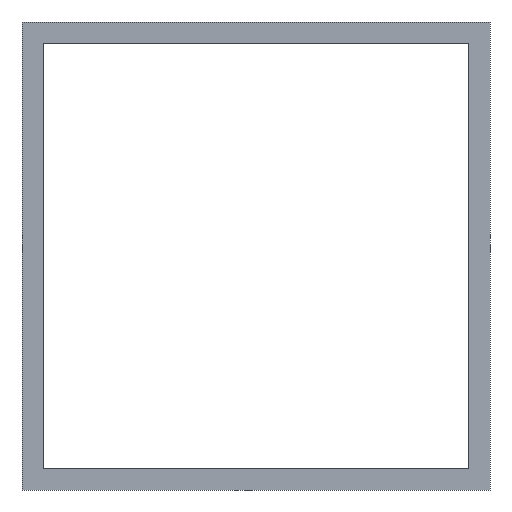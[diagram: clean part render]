
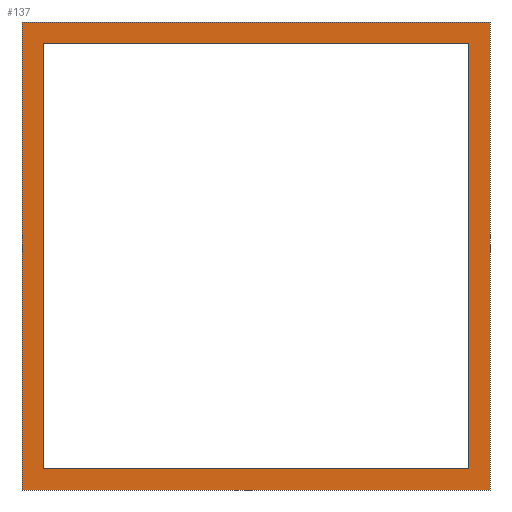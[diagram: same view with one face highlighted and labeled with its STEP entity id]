
A CAD part, front view. The second image highlights one B-rep face of the part: STEP entity #137.
In plain terms, the highlighted planar face has unit normal (0, -1, 0).
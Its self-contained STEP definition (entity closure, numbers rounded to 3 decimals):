
#21 = EDGE_CURVE('',#22,#24,#26,.T.);
#22 = VERTEX_POINT('',#23);
#23 = CARTESIAN_POINT('',(-430.,203.,80.));
#24 = VERTEX_POINT('',#25);
#25 = CARTESIAN_POINT('',(-430.,203.,146.));
#26 = SURFACE_CURVE('',#27,(#31,#43),.PCURVE_S1.);
#27 = LINE('',#28,#29);
#28 = CARTESIAN_POINT('',(-430.,203.,80.));
#29 = VECTOR('',#30,1.);
#30 = DIRECTION('',(0.,0.,1.));
#31 = PCURVE('',#32,#37);
#32 = PLANE('',#33);
#33 = AXIS2_PLACEMENT_3D('',#34,#35,#36);
#34 = CARTESIAN_POINT('',(-430.,203.,80.));
#35 = DIRECTION('',(1.,0.,0.));
#36 = DIRECTION('',(0.,0.,1.));
#37 = DEFINITIONAL_REPRESENTATION('',(#38),#42);
#38 = LINE('',#39,#40);
#39 = CARTESIAN_POINT('',(0.,0.));
#40 = VECTOR('',#41,1.);
#41 = DIRECTION('',(1.,0.));
#42 = ( GEOMETRIC_REPRESENTATION_CONTEXT(2) 
PARAMETRIC_REPRESENTATION_CONTEXT() REPRESENTATION_CONTEXT('2D SPACE',''
  ) );
#43 = PCURVE('',#44,#49);
#44 = PLANE('',#45);
#45 = AXIS2_PLACEMENT_3D('',#46,#47,#48);
#46 = CARTESIAN_POINT('',(-430.,203.,80.));
#47 = DIRECTION('',(0.,1.,0.));
#48 = DIRECTION('',(0.,0.,1.));
#49 = DEFINITIONAL_REPRESENTATION('',(#50),#54);
#50 = LINE('',#51,#52);
#51 = CARTESIAN_POINT('',(0.,0.));
#52 = VECTOR('',#53,1.);
#53 = DIRECTION('',(1.,0.));
#54 = ( GEOMETRIC_REPRESENTATION_CONTEXT(2) 
PARAMETRIC_REPRESENTATION_CONTEXT() REPRESENTATION_CONTEXT('2D SPACE',''
  ) );
#72 = PLANE('',#73);
#73 = AXIS2_PLACEMENT_3D('',#74,#75,#76);
#74 = CARTESIAN_POINT('',(-430.,203.,80.));
#75 = DIRECTION('',(0.,0.,1.));
#76 = DIRECTION('',(1.,0.,0.));
#126 = PLANE('',#127);
#127 = AXIS2_PLACEMENT_3D('',#128,#129,#130);
#128 = CARTESIAN_POINT('',(-430.,203.,146.));
#129 = DIRECTION('',(0.,0.,1.));
#130 = DIRECTION('',(1.,0.,0.));
#137 = ADVANCED_FACE('',(#138,#213),#44,.F.);
#138 = FACE_BOUND('',#139,.F.);
#139 = EDGE_LOOP('',(#140,#163,#164,#187));
#140 = ORIENTED_EDGE('',*,*,#141,.F.);
#141 = EDGE_CURVE('',#22,#142,#144,.T.);
#142 = VERTEX_POINT('',#143);
#143 = CARTESIAN_POINT('',(-364.,203.,80.));
#144 = SURFACE_CURVE('',#145,(#149,#156),.PCURVE_S1.);
#145 = LINE('',#146,#147);
#146 = CARTESIAN_POINT('',(-430.,203.,80.));
#147 = VECTOR('',#148,1.);
#148 = DIRECTION('',(1.,0.,0.));
#149 = PCURVE('',#44,#150);
#150 = DEFINITIONAL_REPRESENTATION('',(#151),#155);
#151 = LINE('',#152,#153);
#152 = CARTESIAN_POINT('',(0.,0.));
#153 = VECTOR('',#154,1.);
#154 = DIRECTION('',(0.,1.));
#155 = ( GEOMETRIC_REPRESENTATION_CONTEXT(2) 
PARAMETRIC_REPRESENTATION_CONTEXT() REPRESENTATION_CONTEXT('2D SPACE',''
  ) );
#156 = PCURVE('',#72,#157);
#157 = DEFINITIONAL_REPRESENTATION('',(#158),#162);
#158 = LINE('',#159,#160);
#159 = CARTESIAN_POINT('',(0.,0.));
#160 = VECTOR('',#161,1.);
#161 = DIRECTION('',(1.,0.));
#162 = ( GEOMETRIC_REPRESENTATION_CONTEXT(2) 
PARAMETRIC_REPRESENTATION_CONTEXT() REPRESENTATION_CONTEXT('2D SPACE',''
  ) );
#163 = ORIENTED_EDGE('',*,*,#21,.T.);
#164 = ORIENTED_EDGE('',*,*,#165,.T.);
#165 = EDGE_CURVE('',#24,#166,#168,.T.);
#166 = VERTEX_POINT('',#167);
#167 = CARTESIAN_POINT('',(-364.,203.,146.));
#168 = SURFACE_CURVE('',#169,(#173,#180),.PCURVE_S1.);
#169 = LINE('',#170,#171);
#170 = CARTESIAN_POINT('',(-430.,203.,146.));
#171 = VECTOR('',#172,1.);
#172 = DIRECTION('',(1.,0.,0.));
#173 = PCURVE('',#44,#174);
#174 = DEFINITIONAL_REPRESENTATION('',(#175),#179);
#175 = LINE('',#176,#177);
#176 = CARTESIAN_POINT('',(66.,0.));
#177 = VECTOR('',#178,1.);
#178 = DIRECTION('',(0.,1.));
#179 = ( GEOMETRIC_REPRESENTATION_CONTEXT(2) 
PARAMETRIC_REPRESENTATION_CONTEXT() REPRESENTATION_CONTEXT('2D SPACE',''
  ) );
#180 = PCURVE('',#126,#181);
#181 = DEFINITIONAL_REPRESENTATION('',(#182),#186);
#182 = LINE('',#183,#184);
#183 = CARTESIAN_POINT('',(0.,0.));
#184 = VECTOR('',#185,1.);
#185 = DIRECTION('',(1.,0.));
#186 = ( GEOMETRIC_REPRESENTATION_CONTEXT(2) 
PARAMETRIC_REPRESENTATION_CONTEXT() REPRESENTATION_CONTEXT('2D SPACE',''
  ) );
#187 = ORIENTED_EDGE('',*,*,#188,.F.);
#188 = EDGE_CURVE('',#142,#166,#189,.T.);
#189 = SURFACE_CURVE('',#190,(#194,#201),.PCURVE_S1.);
#190 = LINE('',#191,#192);
#191 = CARTESIAN_POINT('',(-364.,203.,80.));
#192 = VECTOR('',#193,1.);
#193 = DIRECTION('',(0.,0.,1.));
#194 = PCURVE('',#44,#195);
#195 = DEFINITIONAL_REPRESENTATION('',(#196),#200);
#196 = LINE('',#197,#198);
#197 = CARTESIAN_POINT('',(0.,66.));
#198 = VECTOR('',#199,1.);
#199 = DIRECTION('',(1.,0.));
#200 = ( GEOMETRIC_REPRESENTATION_CONTEXT(2) 
PARAMETRIC_REPRESENTATION_CONTEXT() REPRESENTATION_CONTEXT('2D SPACE',''
  ) );
#201 = PCURVE('',#202,#207);
#202 = PLANE('',#203);
#203 = AXIS2_PLACEMENT_3D('',#204,#205,#206);
#204 = CARTESIAN_POINT('',(-364.,203.,80.));
#205 = DIRECTION('',(1.,0.,0.));
#206 = DIRECTION('',(0.,0.,1.));
#207 = DEFINITIONAL_REPRESENTATION('',(#208),#212);
#208 = LINE('',#209,#210);
#209 = CARTESIAN_POINT('',(0.,0.));
#210 = VECTOR('',#211,1.);
#211 = DIRECTION('',(1.,0.));
#212 = ( GEOMETRIC_REPRESENTATION_CONTEXT(2) 
PARAMETRIC_REPRESENTATION_CONTEXT() REPRESENTATION_CONTEXT('2D SPACE',''
  ) );
#213 = FACE_BOUND('',#214,.F.);
#214 = EDGE_LOOP('',(#215,#243,#269,#295));
#215 = ORIENTED_EDGE('',*,*,#216,.F.);
#216 = EDGE_CURVE('',#217,#219,#221,.T.);
#217 = VERTEX_POINT('',#218);
#218 = CARTESIAN_POINT('',(-427.,203.,143.));
#219 = VERTEX_POINT('',#220);
#220 = CARTESIAN_POINT('',(-367.,203.,143.));
#221 = SURFACE_CURVE('',#222,(#226,#232),.PCURVE_S1.);
#222 = LINE('',#223,#224);
#223 = CARTESIAN_POINT('',(-428.5,203.,143.));
#224 = VECTOR('',#225,1.);
#225 = DIRECTION('',(1.,0.,0.));
#226 = PCURVE('',#44,#227);
#227 = DEFINITIONAL_REPRESENTATION('',(#228),#231);
#228 = B_SPLINE_CURVE_WITH_KNOTS('',1,(#229,#230),.UNSPECIFIED.,.F.,.F.,
  (2,2),(1.5,61.5),.PIECEWISE_BEZIER_KNOTS.);
#229 = CARTESIAN_POINT('',(63.,3.));
#230 = CARTESIAN_POINT('',(63.,63.));
#231 = ( GEOMETRIC_REPRESENTATION_CONTEXT(2) 
PARAMETRIC_REPRESENTATION_CONTEXT() REPRESENTATION_CONTEXT('2D SPACE',''
  ) );
#232 = PCURVE('',#233,#238);
#233 = PLANE('',#234);
#234 = AXIS2_PLACEMENT_3D('',#235,#236,#237);
#235 = CARTESIAN_POINT('',(-427.,202.,143.));
#236 = DIRECTION('',(0.,0.,1.));
#237 = DIRECTION('',(1.,0.,0.));
#238 = DEFINITIONAL_REPRESENTATION('',(#239),#242);
#239 = B_SPLINE_CURVE_WITH_KNOTS('',1,(#240,#241),.UNSPECIFIED.,.F.,.F.,
  (2,2),(1.5,61.5),.PIECEWISE_BEZIER_KNOTS.);
#240 = CARTESIAN_POINT('',(0.,1.));
#241 = CARTESIAN_POINT('',(60.,1.));
#242 = ( GEOMETRIC_REPRESENTATION_CONTEXT(2) 
PARAMETRIC_REPRESENTATION_CONTEXT() REPRESENTATION_CONTEXT('2D SPACE',''
  ) );
#243 = ORIENTED_EDGE('',*,*,#244,.T.);
#244 = EDGE_CURVE('',#217,#245,#247,.T.);
#245 = VERTEX_POINT('',#246);
#246 = CARTESIAN_POINT('',(-427.,203.,83.));
#247 = SURFACE_CURVE('',#248,(#252,#258),.PCURVE_S1.);
#248 = LINE('',#249,#250);
#249 = CARTESIAN_POINT('',(-427.,203.,81.5));
#250 = VECTOR('',#251,1.);
#251 = DIRECTION('',(0.,0.,-1.));
#252 = PCURVE('',#44,#253);
#253 = DEFINITIONAL_REPRESENTATION('',(#254),#257);
#254 = B_SPLINE_CURVE_WITH_KNOTS('',1,(#255,#256),.UNSPECIFIED.,.F.,.F.,
  (2,2),(-61.5,-1.5),.PIECEWISE_BEZIER_KNOTS.);
#255 = CARTESIAN_POINT('',(63.,3.));
#256 = CARTESIAN_POINT('',(3.,3.));
#257 = ( GEOMETRIC_REPRESENTATION_CONTEXT(2) 
PARAMETRIC_REPRESENTATION_CONTEXT() REPRESENTATION_CONTEXT('2D SPACE',''
  ) );
#258 = PCURVE('',#259,#264);
#259 = PLANE('',#260);
#260 = AXIS2_PLACEMENT_3D('',#261,#262,#263);
#261 = CARTESIAN_POINT('',(-427.,202.,83.));
#262 = DIRECTION('',(1.,0.,0.));
#263 = DIRECTION('',(0.,0.,1.));
#264 = DEFINITIONAL_REPRESENTATION('',(#265),#268);
#265 = B_SPLINE_CURVE_WITH_KNOTS('',1,(#266,#267),.UNSPECIFIED.,.F.,.F.,
  (2,2),(-61.5,-1.5),.PIECEWISE_BEZIER_KNOTS.);
#266 = CARTESIAN_POINT('',(60.,-1.));
#267 = CARTESIAN_POINT('',(0.,-1.));
#268 = ( GEOMETRIC_REPRESENTATION_CONTEXT(2) 
PARAMETRIC_REPRESENTATION_CONTEXT() REPRESENTATION_CONTEXT('2D SPACE',''
  ) );
#269 = ORIENTED_EDGE('',*,*,#270,.T.);
#270 = EDGE_CURVE('',#245,#271,#273,.T.);
#271 = VERTEX_POINT('',#272);
#272 = CARTESIAN_POINT('',(-367.,203.,83.));
#273 = SURFACE_CURVE('',#274,(#278,#284),.PCURVE_S1.);
#274 = LINE('',#275,#276);
#275 = CARTESIAN_POINT('',(-428.5,203.,83.));
#276 = VECTOR('',#277,1.);
#277 = DIRECTION('',(1.,0.,0.));
#278 = PCURVE('',#44,#279);
#279 = DEFINITIONAL_REPRESENTATION('',(#280),#283);
#280 = B_SPLINE_CURVE_WITH_KNOTS('',1,(#281,#282),.UNSPECIFIED.,.F.,.F.,
  (2,2),(1.5,61.5),.PIECEWISE_BEZIER_KNOTS.);
#281 = CARTESIAN_POINT('',(3.,3.));
#282 = CARTESIAN_POINT('',(3.,63.));
#283 = ( GEOMETRIC_REPRESENTATION_CONTEXT(2) 
PARAMETRIC_REPRESENTATION_CONTEXT() REPRESENTATION_CONTEXT('2D SPACE',''
  ) );
#284 = PCURVE('',#285,#290);
#285 = PLANE('',#286);
#286 = AXIS2_PLACEMENT_3D('',#287,#288,#289);
#287 = CARTESIAN_POINT('',(-427.,202.,83.));
#288 = DIRECTION('',(0.,0.,1.));
#289 = DIRECTION('',(1.,0.,0.));
#290 = DEFINITIONAL_REPRESENTATION('',(#291),#294);
#291 = B_SPLINE_CURVE_WITH_KNOTS('',1,(#292,#293),.UNSPECIFIED.,.F.,.F.,
  (2,2),(1.5,61.5),.PIECEWISE_BEZIER_KNOTS.);
#292 = CARTESIAN_POINT('',(0.,1.));
#293 = CARTESIAN_POINT('',(60.,1.));
#294 = ( GEOMETRIC_REPRESENTATION_CONTEXT(2) 
PARAMETRIC_REPRESENTATION_CONTEXT() REPRESENTATION_CONTEXT('2D SPACE',''
  ) );
#295 = ORIENTED_EDGE('',*,*,#296,.F.);
#296 = EDGE_CURVE('',#219,#271,#297,.T.);
#297 = SURFACE_CURVE('',#298,(#302,#308),.PCURVE_S1.);
#298 = LINE('',#299,#300);
#299 = CARTESIAN_POINT('',(-367.,203.,81.5));
#300 = VECTOR('',#301,1.);
#301 = DIRECTION('',(0.,0.,-1.));
#302 = PCURVE('',#44,#303);
#303 = DEFINITIONAL_REPRESENTATION('',(#304),#307);
#304 = B_SPLINE_CURVE_WITH_KNOTS('',1,(#305,#306),.UNSPECIFIED.,.F.,.F.,
  (2,2),(-61.5,-1.5),.PIECEWISE_BEZIER_KNOTS.);
#305 = CARTESIAN_POINT('',(63.,63.));
#306 = CARTESIAN_POINT('',(3.,63.));
#307 = ( GEOMETRIC_REPRESENTATION_CONTEXT(2) 
PARAMETRIC_REPRESENTATION_CONTEXT() REPRESENTATION_CONTEXT('2D SPACE',''
  ) );
#308 = PCURVE('',#309,#314);
#309 = PLANE('',#310);
#310 = AXIS2_PLACEMENT_3D('',#311,#312,#313);
#311 = CARTESIAN_POINT('',(-367.,202.,83.));
#312 = DIRECTION('',(1.,0.,0.));
#313 = DIRECTION('',(0.,0.,1.));
#314 = DEFINITIONAL_REPRESENTATION('',(#315),#318);
#315 = B_SPLINE_CURVE_WITH_KNOTS('',1,(#316,#317),.UNSPECIFIED.,.F.,.F.,
  (2,2),(-61.5,-1.5),.PIECEWISE_BEZIER_KNOTS.);
#316 = CARTESIAN_POINT('',(60.,-1.));
#317 = CARTESIAN_POINT('',(0.,-1.));
#318 = ( GEOMETRIC_REPRESENTATION_CONTEXT(2) 
PARAMETRIC_REPRESENTATION_CONTEXT() REPRESENTATION_CONTEXT('2D SPACE',''
  ) );
